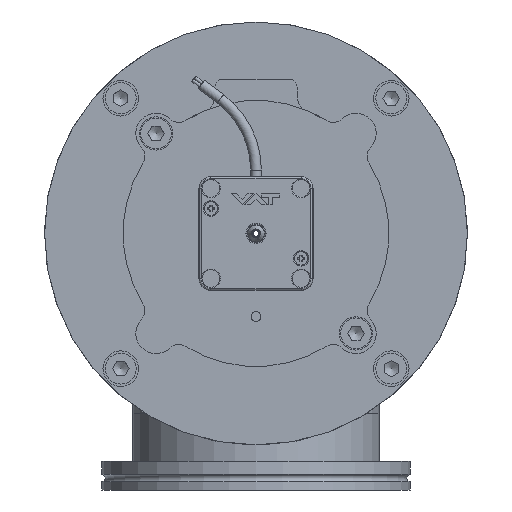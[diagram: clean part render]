
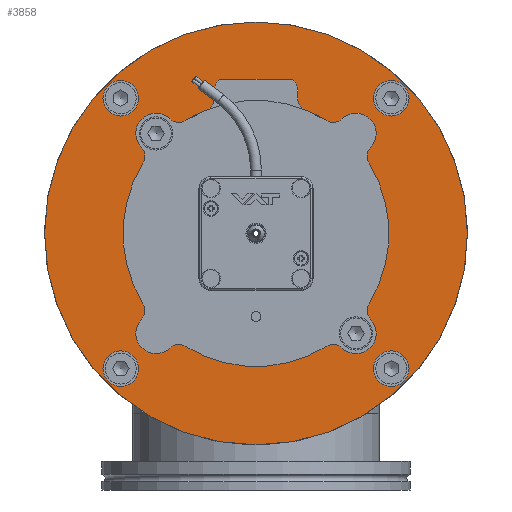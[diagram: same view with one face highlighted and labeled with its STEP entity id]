
A CAD part, left-side view. The second image highlights one B-rep face of the part: STEP entity #3858.
In plain terms, the highlighted planar face has unit normal (-1, 0, 0).
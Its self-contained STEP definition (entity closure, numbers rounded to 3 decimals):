
#3858=ADVANCED_FACE('BCT_REF_156008',(#5169,#5170,#5171,#5172,#5173,#5174,
#5175,#5176),#4239,.F.);
#4239=PLANE('',#13102);
#4693=CIRCLE('',#13079,89.);
#4703=CIRCLE('',#13095,3.4);
#4704=CIRCLE('',#13096,3.4);
#4705=CIRCLE('',#13097,7.5);
#4706=CIRCLE('',#13098,7.5);
#4707=CIRCLE('',#13099,7.5);
#4708=CIRCLE('',#13100,7.5);
#4709=CIRCLE('',#13101,55.145);
#5169=FACE_BOUND('',#5974,.T.);
#5170=FACE_BOUND('',#5975,.T.);
#5171=FACE_BOUND('',#5976,.T.);
#5172=FACE_BOUND('',#5977,.T.);
#5173=FACE_BOUND('',#5978,.T.);
#5174=FACE_BOUND('',#5979,.T.);
#5175=FACE_BOUND('',#5980,.T.);
#5176=FACE_BOUND('',#5981,.T.);
#5974=EDGE_LOOP('',(#8210));
#5975=EDGE_LOOP('',(#8211));
#5976=EDGE_LOOP('',(#8212));
#5977=EDGE_LOOP('',(#8213));
#5978=EDGE_LOOP('',(#8214));
#5979=EDGE_LOOP('',(#8215));
#5980=EDGE_LOOP('',(#8216));
#5981=EDGE_LOOP('',(#8217));
#8210=ORIENTED_EDGE('',*,*,#10721,.T.);
#8211=ORIENTED_EDGE('',*,*,#10722,.T.);
#8212=ORIENTED_EDGE('',*,*,#10723,.T.);
#8213=ORIENTED_EDGE('',*,*,#10724,.T.);
#8214=ORIENTED_EDGE('',*,*,#10725,.T.);
#8215=ORIENTED_EDGE('',*,*,#10726,.T.);
#8216=ORIENTED_EDGE('',*,*,#10727,.T.);
#8217=ORIENTED_EDGE('',*,*,#10701,.T.);
#9486=VERTEX_POINT('',#19727);
#9501=VERTEX_POINT('',#19780);
#9502=VERTEX_POINT('',#19782);
#9503=VERTEX_POINT('',#19784);
#9504=VERTEX_POINT('',#19786);
#9505=VERTEX_POINT('',#19788);
#9506=VERTEX_POINT('',#19790);
#9507=VERTEX_POINT('',#19792);
#10701=EDGE_CURVE('',#9486,#9486,#4693,.T.);
#10721=EDGE_CURVE('',#9501,#9501,#4703,.T.);
#10722=EDGE_CURVE('',#9502,#9502,#4704,.T.);
#10723=EDGE_CURVE('BCT_REF_155885',#9503,#9503,#4705,.T.);
#10724=EDGE_CURVE('',#9504,#9504,#4706,.T.);
#10725=EDGE_CURVE('',#9505,#9505,#4707,.T.);
#10726=EDGE_CURVE('',#9506,#9506,#4708,.T.);
#10727=EDGE_CURVE('BCT_REF_156011',#9507,#9507,#4709,.T.);
#13079=AXIS2_PLACEMENT_3D('',#19726,#15562,#15563);
#13095=AXIS2_PLACEMENT_3D('',#19779,#15602,#15603);
#13096=AXIS2_PLACEMENT_3D('',#19781,#15604,#15605);
#13097=AXIS2_PLACEMENT_3D('',#19783,#15606,#15607);
#13098=AXIS2_PLACEMENT_3D('',#19785,#15608,#15609);
#13099=AXIS2_PLACEMENT_3D('',#19787,#15610,#15611);
#13100=AXIS2_PLACEMENT_3D('',#19789,#15612,#15613);
#13101=AXIS2_PLACEMENT_3D('',#19791,#15614,#15615);
#13102=AXIS2_PLACEMENT_3D('',#19793,#15616,#15617);
#15562=DIRECTION('',(-1.,0.,0.));
#15563=DIRECTION('',(0.,0.,1.));
#15602=DIRECTION('',(1.,0.,0.));
#15603=DIRECTION('',(0.,0.,1.));
#15604=DIRECTION('',(1.,0.,0.));
#15605=DIRECTION('',(0.,0.,-1.));
#15606=DIRECTION('',(1.,0.,0.));
#15607=DIRECTION('',(0.,-1.,0.));
#15608=DIRECTION('',(1.,0.,0.));
#15609=DIRECTION('',(0.,0.,1.));
#15610=DIRECTION('',(1.,0.,0.));
#15611=DIRECTION('',(0.,1.,0.));
#15612=DIRECTION('',(1.,0.,0.));
#15613=DIRECTION('',(0.,0.,-1.));
#15614=DIRECTION('',(1.,0.,0.));
#15615=DIRECTION('',(0.,0.,-1.));
#15616=DIRECTION('',(1.,0.,0.));
#15617=DIRECTION('',(0.,0.,-1.));
#19726=CARTESIAN_POINT('',(0.,0.,0.));
#19727=CARTESIAN_POINT('',(0.,0.,89.));
#19779=CARTESIAN_POINT('',(0.,-42.073,42.073));
#19780=CARTESIAN_POINT('',(0.,-42.073,45.473));
#19781=CARTESIAN_POINT('',(0.,42.073,-42.073));
#19782=CARTESIAN_POINT('',(0.,42.073,-45.473));
#19783=CARTESIAN_POINT('',(0.,56.922,-56.922));
#19784=CARTESIAN_POINT('',(0.,49.422,-56.922));
#19785=CARTESIAN_POINT('',(0.,-56.922,-56.922));
#19786=CARTESIAN_POINT('',(0.,-56.922,-49.422));
#19787=CARTESIAN_POINT('',(0.,-56.922,56.922));
#19788=CARTESIAN_POINT('',(0.,-49.422,56.922));
#19789=CARTESIAN_POINT('',(0.,56.922,56.922));
#19790=CARTESIAN_POINT('',(0.,56.922,49.422));
#19791=CARTESIAN_POINT('',(0.,0.,0.));
#19792=CARTESIAN_POINT('',(0.,0.,-55.145));
#19793=CARTESIAN_POINT('',(0.,89.,0.));
